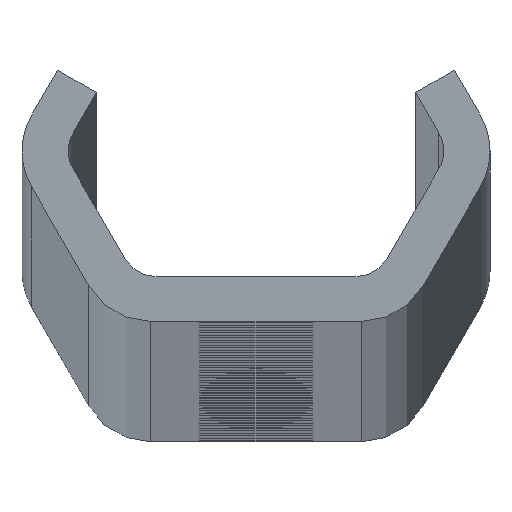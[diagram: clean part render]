
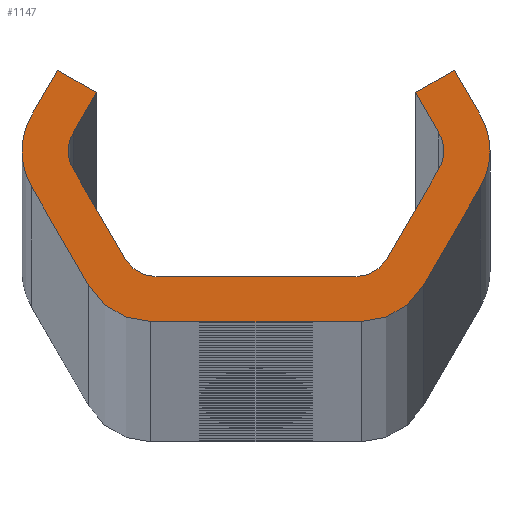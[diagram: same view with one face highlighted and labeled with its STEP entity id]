
A CAD part, top view. The second image highlights one B-rep face of the part: STEP entity #1147.
In plain terms, the highlighted planar face has unit normal (0, 0, 1).
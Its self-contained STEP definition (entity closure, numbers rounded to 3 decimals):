
#1147=ADVANCED_FACE('NONE',(#3103),#3104,.F.);
#3103=FACE_OUTER_BOUND('',#9885,.T.);
#3104=PLANE('',#9886);
#9885=EDGE_LOOP('',(#20163,#20164,#20165,#20166,#20167,#20168,#20169,#20170,#20171,#20172,#20173,#20174,#20175,#20176,#20177,#20178,#20179,#20180,#20181,#20182,#20183,#20184,#20185,#20186));
#9886=AXIS2_PLACEMENT_3D('',#20187,#20188,#20189);
#20163=ORIENTED_EDGE('',*,*,#26509,.T.);
#20164=ORIENTED_EDGE('',*,*,#26526,.T.);
#20165=ORIENTED_EDGE('',*,*,#26511,.T.);
#20166=ORIENTED_EDGE('',*,*,#26527,.T.);
#20167=ORIENTED_EDGE('',*,*,#26520,.F.);
#20168=ORIENTED_EDGE('',*,*,#26528,.T.);
#20169=ORIENTED_EDGE('',*,*,#25396,.T.);
#20170=ORIENTED_EDGE('',*,*,#26523,.F.);
#20171=ORIENTED_EDGE('',*,*,#26028,.F.);
#20172=ORIENTED_EDGE('',*,*,#26032,.F.);
#20173=ORIENTED_EDGE('',*,*,#25650,.T.);
#20174=ORIENTED_EDGE('',*,*,#26529,.T.);
#20175=ORIENTED_EDGE('',*,*,#26036,.F.);
#20176=ORIENTED_EDGE('',*,*,#26530,.T.);
#20177=ORIENTED_EDGE('',*,*,#26041,.F.);
#20178=ORIENTED_EDGE('',*,*,#26531,.T.);
#20179=ORIENTED_EDGE('',*,*,#26492,.T.);
#20180=ORIENTED_EDGE('',*,*,#26532,.T.);
#20181=ORIENTED_EDGE('',*,*,#25391,.T.);
#20182=ORIENTED_EDGE('',*,*,#26495,.T.);
#20183=ORIENTED_EDGE('',*,*,#26501,.T.);
#20184=ORIENTED_EDGE('',*,*,#26505,.T.);
#20185=ORIENTED_EDGE('',*,*,#26533,.T.);
#20186=ORIENTED_EDGE('',*,*,#25653,.T.);
#20187=CARTESIAN_POINT('',(0.0,0.0,3840.0));
#20188=DIRECTION('',(0.0,0.0,-1.0));
#20189=DIRECTION('',(0.0,-1.0,0.0));
#25391=EDGE_CURVE('NONE',#28284,#28288,#28290,.T.);
#25396=EDGE_CURVE('NONE',#28293,#28297,#28299,.T.);
#25650=EDGE_CURVE('NONE',#28756,#28754,#28757,.T.);
#25653=EDGE_CURVE('NONE',#28760,#28761,#28762,.T.);
#26028=EDGE_CURVE('NONE',#29324,#29326,#29327,.T.);
#26032=EDGE_CURVE('NONE',#28756,#29324,#29331,.T.);
#26036=EDGE_CURVE('NONE',#29336,#29338,#29339,.T.);
#26041=EDGE_CURVE('NONE',#29345,#29347,#29348,.T.);
#26492=EDGE_CURVE('NONE',#30222,#30220,#30223,.T.);
#26495=EDGE_CURVE('NONE',#28288,#30226,#30227,.T.);
#26501=EDGE_CURVE('NONE',#30226,#30234,#30236,.T.);
#26505=EDGE_CURVE('NONE',#30234,#30240,#30242,.T.);
#26509=EDGE_CURVE('NONE',#28761,#30246,#30248,.T.);
#26511=EDGE_CURVE('NONE',#30250,#30251,#30252,.T.);
#26520=EDGE_CURVE('NONE',#30264,#30266,#30267,.T.);
#26523=EDGE_CURVE('NONE',#29326,#28297,#30270,.T.);
#26526=EDGE_CURVE('NONE',#30246,#30250,#30273,.T.);
#26527=EDGE_CURVE('NONE',#30251,#30266,#30274,.T.);
#26528=EDGE_CURVE('NONE',#30264,#28293,#30275,.T.);
#26529=EDGE_CURVE('NONE',#28754,#29338,#30276,.T.);
#26530=EDGE_CURVE('NONE',#29336,#29347,#30277,.T.);
#26531=EDGE_CURVE('NONE',#29345,#30222,#30278,.T.);
#26532=EDGE_CURVE('NONE',#30220,#28284,#30279,.T.);
#26533=EDGE_CURVE('NONE',#30240,#28760,#30280,.T.);
#28284=VERTEX_POINT('',#32571);
#28288=VERTEX_POINT('NONE',#32576);
#28290=CIRCLE('',#32579,2.0);
#28293=VERTEX_POINT('',#32582);
#28297=VERTEX_POINT('NONE',#32587);
#28299=CIRCLE('',#32590,4.0);
#28754=VERTEX_POINT('NONE',#37249);
#28756=VERTEX_POINT('NONE',#37252);
#28757=CIRCLE('',#37253,2.0);
#28760=VERTEX_POINT('NONE',#37257);
#28761=VERTEX_POINT('NONE',#37258);
#28762=CIRCLE('',#37259,4.0);
#29324=VERTEX_POINT('NONE',#37916);
#29326=VERTEX_POINT('NONE',#37919);
#29327=LINE('',#37920,#37921);
#29331=LINE('',#37927,#37928);
#29336=VERTEX_POINT('NONE',#37934);
#29338=VERTEX_POINT('NONE',#37937);
#29339=LINE('',#37938,#37939);
#29345=VERTEX_POINT('NONE',#37947);
#29347=VERTEX_POINT('NONE',#37950);
#29348=LINE('',#37951,#37952);
#30220=VERTEX_POINT('NONE',#41226);
#30222=VERTEX_POINT('NONE',#41229);
#30223=LINE('',#41230,#41231);
#30226=VERTEX_POINT('NONE',#41235);
#30227=LINE('',#41236,#41237);
#30234=VERTEX_POINT('NONE',#41247);
#30236=LINE('',#41250,#41251);
#30240=VERTEX_POINT('NONE',#41256);
#30242=LINE('',#41259,#41260);
#30246=VERTEX_POINT('NONE',#41265);
#30248=LINE('',#41268,#41269);
#30250=VERTEX_POINT('NONE',#41271);
#30251=VERTEX_POINT('NONE',#41272);
#30252=LINE('',#41273,#41274);
#30264=VERTEX_POINT('NONE',#41290);
#30266=VERTEX_POINT('NONE',#41293);
#30267=LINE('',#41294,#41295);
#30270=LINE('',#41299,#41300);
#30273=CIRCLE('',#41304,4.0);
#30274=CIRCLE('',#41305,4.0);
#30275=CIRCLE('',#41306,4.0);
#30276=CIRCLE('',#41307,2.0);
#30277=CIRCLE('',#41308,2.0);
#30278=CIRCLE('',#41309,2.0);
#30279=CIRCLE('',#41310,2.0);
#30280=CIRCLE('',#41311,4.0);
#32571=CARTESIAN_POINT('',(-10.455,0.,3840.0));
#32576=CARTESIAN_POINT('',(-10.187,1.,3840.0));
#32579=AXIS2_PLACEMENT_3D('',#49005,#49006,#49007);
#32582=CARTESIAN_POINT('',(13.032,0.,3840.0));
#32587=CARTESIAN_POINT('',(12.496,2.,3840.0));
#32590=AXIS2_PLACEMENT_3D('',#49013,#49014,#49015);
#37249=CARTESIAN_POINT('',(10.455,0.,3840.0));
#37252=CARTESIAN_POINT('',(10.187,1.,3840.0));
#37253=AXIS2_PLACEMENT_3D('',#49132,#49133,#49134);
#37257=CARTESIAN_POINT('',(-13.032,0.,3840.0));
#37258=CARTESIAN_POINT('',(-12.496,-2.,3840.0));
#37259=AXIS2_PLACEMENT_3D('',#49136,#49137,#49138);
#37916=CARTESIAN_POINT('',(8.888,3.25,3840.0));
#37919=CARTESIAN_POINT('',(11.053,4.5,3840.0));
#37920=CARTESIAN_POINT('',(8.888,3.25,3840.0));
#37921=VECTOR('',#49790,1000.0);
#37927=CARTESIAN_POINT('',(10.764,0.,3840.0));
#37928=VECTOR('',#49793,1000.0);
#37934=CARTESIAN_POINT('',(7.3,-6.,3840.0));
#37937=CARTESIAN_POINT('',(10.187,-1.,3840.0));
#37938=CARTESIAN_POINT('',(6.723,-7.0,3840.0));
#37939=VECTOR('',#49796,1000.0);
#37947=CARTESIAN_POINT('',(-5.568,-7.0,3840.0));
#37950=CARTESIAN_POINT('',(5.568,-7.0,3840.0));
#37951=CARTESIAN_POINT('',(-6.723,-7.0,3840.0));
#37952=VECTOR('',#49800,1000.0);
#41226=CARTESIAN_POINT('',(-10.187,-1.,3840.0));
#41229=CARTESIAN_POINT('',(-7.3,-6.,3840.0));
#41230=CARTESIAN_POINT('',(-6.723,-7.0,3840.0));
#41231=VECTOR('',#50206,1000.0);
#41235=CARTESIAN_POINT('',(-8.888,3.25,3840.0));
#41236=CARTESIAN_POINT('',(-10.764,0.0,3840.0));
#41237=VECTOR('',#50208,1000.0);
#41247=CARTESIAN_POINT('',(-11.053,4.5,3840.0));
#41250=CARTESIAN_POINT('',(-8.888,3.25,3840.0));
#41251=VECTOR('',#50213,1000.0);
#41256=CARTESIAN_POINT('',(-12.496,2.0,3840.0));
#41259=CARTESIAN_POINT('',(-11.053,4.5,3840.0));
#41260=VECTOR('',#50216,1000.0);
#41265=CARTESIAN_POINT('',(-9.321,-7.5,3840.0));
#41268=CARTESIAN_POINT('',(-13.651,0.0,3840.0));
#41269=VECTOR('',#50219,1000.0);
#41271=CARTESIAN_POINT('',(-5.857,-9.5,3840.0));
#41272=CARTESIAN_POINT('',(5.857,-9.5,3840.0));
#41273=CARTESIAN_POINT('',(-8.166,-9.5,3840.0));
#41274=VECTOR('',#50220,1000.0);
#41290=CARTESIAN_POINT('',(12.496,-2.,3840.0));
#41293=CARTESIAN_POINT('',(9.321,-7.5,3840.0));
#41294=CARTESIAN_POINT('',(13.651,0.,3840.0));
#41295=VECTOR('',#50232,1000.0);
#41299=CARTESIAN_POINT('',(11.053,4.5,3840.0));
#41300=VECTOR('',#50234,1000.0);
#41304=AXIS2_PLACEMENT_3D('',#50236,#50237,#50238);
#41305=AXIS2_PLACEMENT_3D('',#50239,#50240,#50241);
#41306=AXIS2_PLACEMENT_3D('',#50242,#50243,#50244);
#41307=AXIS2_PLACEMENT_3D('',#50245,#50246,#50247);
#41308=AXIS2_PLACEMENT_3D('',#50248,#50249,#50250);
#41309=AXIS2_PLACEMENT_3D('',#50251,#50252,#50253);
#41310=AXIS2_PLACEMENT_3D('',#50254,#50255,#50256);
#41311=AXIS2_PLACEMENT_3D('',#50257,#50258,#50259);
#49005=CARTESIAN_POINT('',(-8.455,0.,3840.0));
#49006=DIRECTION('',(0.0,0.0,-1.0));
#49007=DIRECTION('',(-1.0,0.0,0.0));
#49013=CARTESIAN_POINT('',(9.032,0.,3840.0));
#49014=DIRECTION('',(0.0,0.0,1.0));
#49015=DIRECTION('',(-1.0,0.0,0.0));
#49132=CARTESIAN_POINT('',(8.455,0.,3840.0));
#49133=DIRECTION('',(0.0,0.0,-1.0));
#49134=DIRECTION('',(-1.0,0.0,0.0));
#49136=CARTESIAN_POINT('',(-9.032,0.,3840.0));
#49137=DIRECTION('',(0.0,0.0,1.0));
#49138=DIRECTION('',(-1.0,0.0,0.0));
#49790=DIRECTION('',(0.866,0.5,0.0));
#49793=DIRECTION('',(-0.5,0.866,0.0));
#49796=DIRECTION('',(0.5,0.866,0.0));
#49800=DIRECTION('',(1.0,0.,0.0));
#50206=DIRECTION('',(-0.5,0.866,0.0));
#50208=DIRECTION('',(0.5,0.866,0.0));
#50213=DIRECTION('',(-0.866,0.5,0.0));
#50216=DIRECTION('',(-0.5,-0.866,0.0));
#50219=DIRECTION('',(0.5,-0.866,0.0));
#50220=DIRECTION('',(1.0,0.,0.0));
#50232=DIRECTION('',(-0.5,-0.866,0.0));
#50234=DIRECTION('',(0.5,-0.866,0.0));
#50236=CARTESIAN_POINT('',(-5.857,-5.5,3840.0));
#50237=DIRECTION('',(0.0,0.0,1.0));
#50238=DIRECTION('',(-1.0,0.0,0.0));
#50239=CARTESIAN_POINT('',(5.857,-5.5,3840.0));
#50240=DIRECTION('',(0.0,0.0,1.0));
#50241=DIRECTION('',(-1.0,0.0,0.0));
#50242=CARTESIAN_POINT('',(9.032,0.,3840.0));
#50243=DIRECTION('',(0.0,0.0,1.0));
#50244=DIRECTION('',(-1.0,0.0,0.0));
#50245=CARTESIAN_POINT('',(8.455,0.,3840.0));
#50246=DIRECTION('',(0.0,0.0,-1.0));
#50247=DIRECTION('',(-1.0,0.0,0.0));
#50248=CARTESIAN_POINT('',(5.568,-5.0,3840.0));
#50249=DIRECTION('',(0.0,0.0,-1.0));
#50250=DIRECTION('',(-1.0,0.0,0.0));
#50251=CARTESIAN_POINT('',(-5.568,-5.0,3840.0));
#50252=DIRECTION('',(0.0,0.0,-1.0));
#50253=DIRECTION('',(-1.0,0.0,0.0));
#50254=CARTESIAN_POINT('',(-8.455,0.,3840.0));
#50255=DIRECTION('',(0.0,0.0,-1.0));
#50256=DIRECTION('',(-1.0,0.0,0.0));
#50257=CARTESIAN_POINT('',(-9.032,0.,3840.0));
#50258=DIRECTION('',(0.0,0.0,1.0));
#50259=DIRECTION('',(-1.0,0.,0.0));
